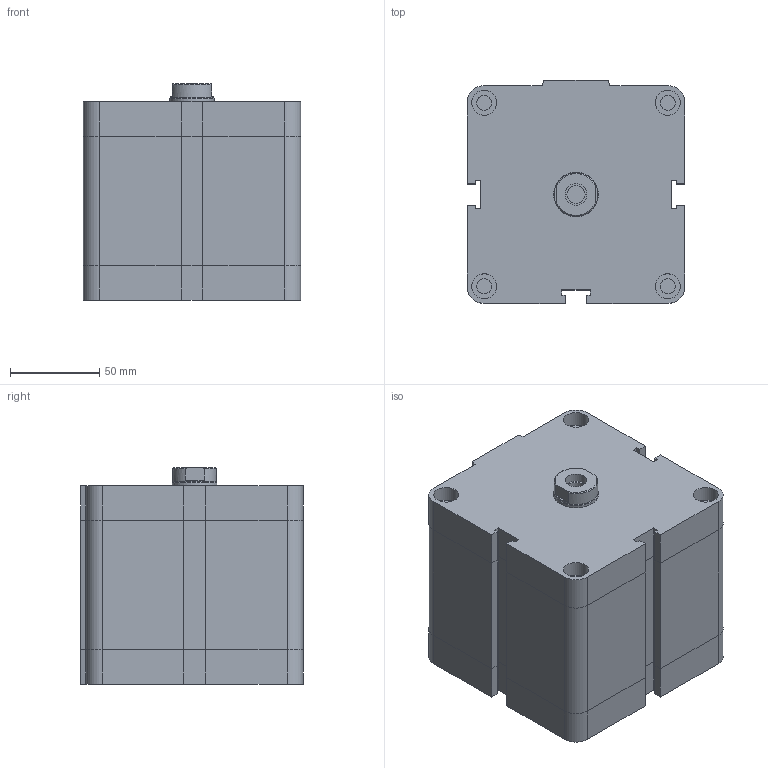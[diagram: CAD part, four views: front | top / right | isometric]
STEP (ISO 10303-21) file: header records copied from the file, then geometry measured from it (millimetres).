
FILE_DESCRIPTION((''),'2;1');
FILE_NAME('I:\Area Tecnica\Disegni\VARIE-3D\Componenti\EUROPE\15##_###_####_01_#\1581_100_0045_01_1.stp','2008-12-19T15:54:20',('rivolro1'),(''),'Autodesk Inventor 2009','Autodesk Inventor 2009','');
FILE_SCHEMA(('AUTOMOTIVE_DESIGN { 1 0 10303 214 1 1 1 1 }'));
Length unit declared in the file: millimetre
Products named in the file (3): 1581_100_0045_01_1; 1581_100_0045_01_1_C; 1561_100_0045_01_1_S
Assembly tree (2 placements, depth 2):
  1581_100_0045_01_1
    1581_100_0045_01_1_C
    1561_100_0045_01_1_S
Bounding box: 122 x 125 x 121.5 mm (x, y, z)
Volume: 1613593 mm3; surface area: 109795.8 mm2
Topology: 2 solids, 2 shells, 163 faces, 349 edges, 211 vertices
Faces by surface type: plane 112, bspline 26, cylinder 22, cone 3
Full cylindrical faces by diameter (mm): 8.376 x4, 14 x4, 24.5 x1, 25 x1
Entity records: 4455 total; most frequent: CARTESIAN_POINT 952, DIRECTION 662, ORIENTED_EDGE 630, EDGE_CURVE 315, VECTOR 244, LINE 244, AXIS2_PLACEMENT_3D 209, EDGE_LOOP 208
